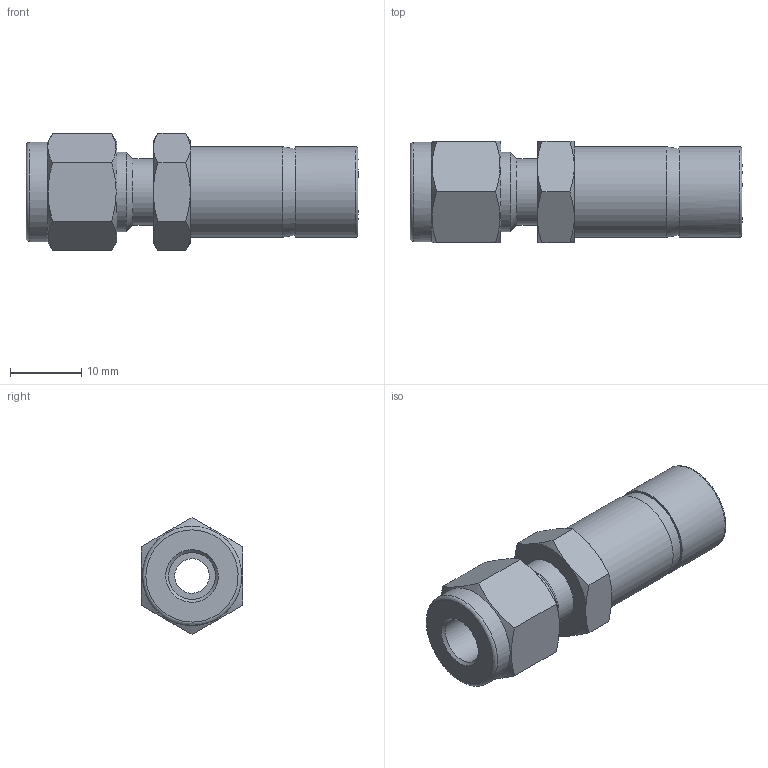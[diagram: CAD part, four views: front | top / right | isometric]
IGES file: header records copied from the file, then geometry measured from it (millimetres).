
Global section: file name: SR-4-8; native system: Autodesk Inventor 2016; preprocessor: unknown; author: DESIGNPC2; date: 20151111.170402; units: millimetre
Bounding box: 46.46 x 14.2 x 16.4 mm (x, y, z)
Volume: 4080.4 mm3; surface area: 3534.4 mm2
Topology: 1 solids, 1 shells, 47 faces, 134 edges, 94 vertices
Faces by surface type: bspline 47
